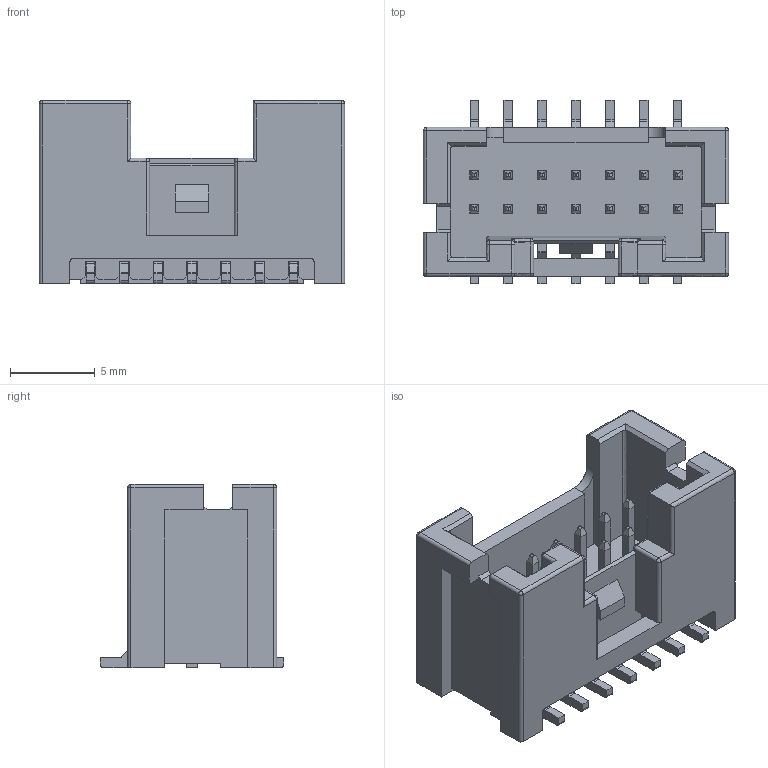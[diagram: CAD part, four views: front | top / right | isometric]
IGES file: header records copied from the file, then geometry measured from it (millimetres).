
Start section: ZWSOFT
Global section: file name: WF2013-2WMXXER1.igs; native system: ZW3D; preprocessor: 1.0; author: ZW3D; organization: ZWSOFT; date: 240325.165415; units: millimetre
Bounding box: 18 x 10.8 x 10.8 mm (x, y, z)
Surface area: 1752.5 mm2 (no closed solid volume)
Topology: 0 solids, 0 shells, 1045 faces, 6046 edges, 6045 vertices
Faces by surface type: bspline 1045
